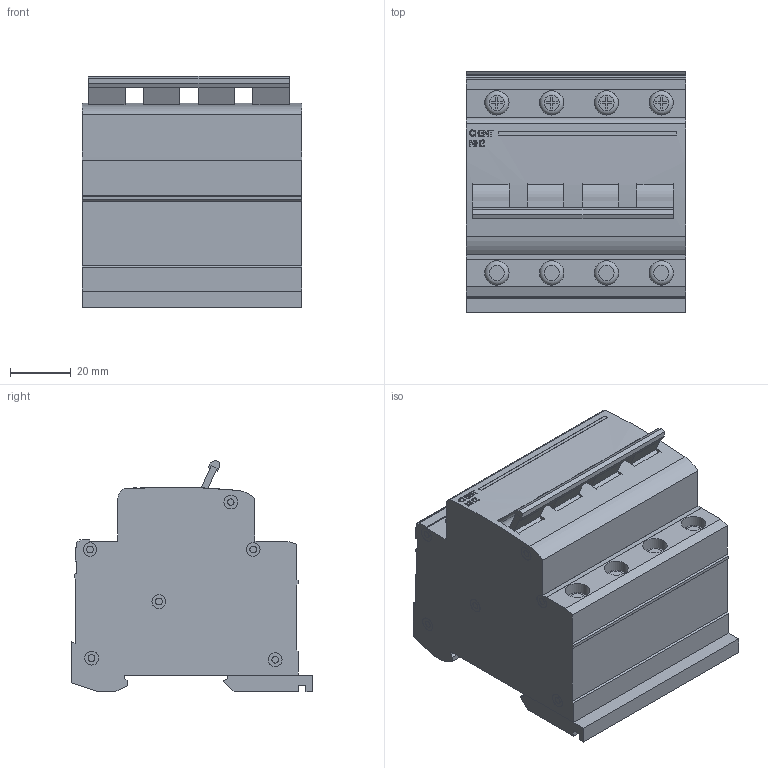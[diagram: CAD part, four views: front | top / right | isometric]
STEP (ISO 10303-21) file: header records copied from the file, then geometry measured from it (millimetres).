
FILE_DESCRIPTION(/* description */ (''),/* implementation_level */ '2;1');
FILE_NAME(/* name */ 'D:\CHINT\NH2\Нагр. выключатель NH2 4P 32A (CHINT).stp',/* time_stamp */ '2017-09-30T15:17:46+04:00',/* author */ ('RSagdiev'),/* organization */ (''),/* preprocessor_version */ 'ST-DEVELOPER v16.5',/* originating_system */ 'Autodesk Inventor 2017',/* authorisation */ '');
FILE_SCHEMA (('AUTOMOTIVE_DESIGN { 1 0 10303 214 3 1 1 }'));
Length unit declared in the file: millimetre
Products named in the file (1): Нагр. \X2\0432044B043A043B044E0447
043004420435043B044C\X0\ NH2 4P 32A (CHINT)
Bounding box: 72 x 79 x 76.13 mm (x, y, z)
Volume: 300213.4 mm3; surface area: 45632.1 mm2
Topology: 15 solids, 27 shells, 506 faces, 1093 edges, 718 vertices
Faces by surface type: plane 349, cylinder 122, bspline 27, torus 8
Full cylindrical faces by diameter (mm): 2.111 x8, 2.171 x8, 2.212 x24, 4.524 x30, 8 x16
Entity records: 13929 total; most frequent: CARTESIAN_POINT 3055, DIRECTION 2229, ORIENTED_EDGE 1998, EDGE_CURVE 999, AXIS2_PLACEMENT_3D 812, VERTEX_POINT 718, EDGE_LOOP 689, LINE 605
